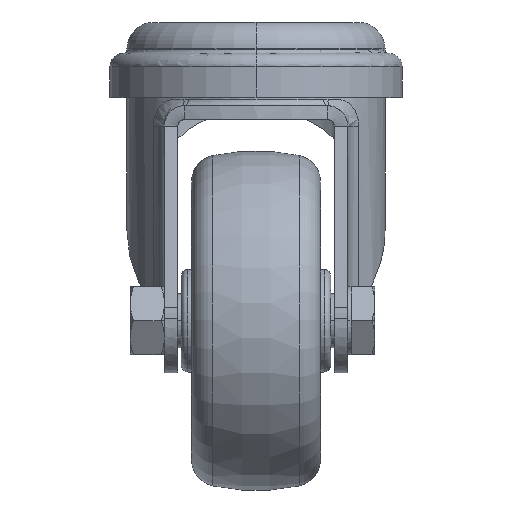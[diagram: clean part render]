
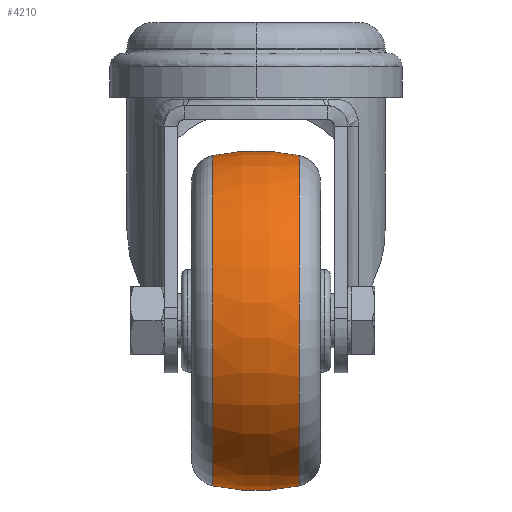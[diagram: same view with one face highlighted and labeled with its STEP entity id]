
A CAD part, top view. The second image highlights one B-rep face of the part: STEP entity #4210.
In plain terms, the highlighted toroidal (fillet/blend) face has major radius 5 mm and minor radius 30 mm.
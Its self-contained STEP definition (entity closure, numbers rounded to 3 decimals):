
#139 = ORIENTED_EDGE ( 'NONE', *, *, #19090, .T. ) ;
#409 = ORIENTED_EDGE ( 'NONE', *, *, #19095, .F. ) ;
#478 = ORIENTED_EDGE ( 'NONE', *, *, #19093, .T. ) ;
#479 = ORIENTED_EDGE ( 'NONE', *, *, #19083, .F. ) ;
#2258 = AXIS2_PLACEMENT_3D ( 'NONE', #28510, #28539, #28541 ) ;
#2272 = TOROIDAL_SURFACE ( 'NONE', #2258, -5., 30. ) ;
#4210 = ADVANCED_FACE ( 'NONE', ( #28481 ), #2272, .T. ) ;
#7751 = CARTESIAN_POINT ( 'NONE',  ( 6.346, 0., -24.321 ) ) ;
#7754 = CARTESIAN_POINT ( 'NONE',  ( -6.346, 0., -24.321 ) ) ;
#7755 = CARTESIAN_POINT ( 'NONE',  ( 6.346, 0., 24.321 ) ) ;
#7774 = CARTESIAN_POINT ( 'NONE',  ( -6.346, 0., 24.321 ) ) ;
#10451 = CIRCLE ( 'NONE', #10455, 24.321 ) ;
#10455 = AXIS2_PLACEMENT_3D ( 'NONE', #42917, #42918, #42919 ) ;
#10462 = CIRCLE ( 'NONE', #10464, 24.321 ) ;
#10463 = CIRCLE ( 'NONE', #10467, 30. ) ;
#10464 = AXIS2_PLACEMENT_3D ( 'NONE', #42935, #42936, #42937 ) ;
#10466 = CIRCLE ( 'NONE', #10468, 30. ) ;
#10467 = AXIS2_PLACEMENT_3D ( 'NONE', #42941, #42942, #42943 ) ;
#10468 = AXIS2_PLACEMENT_3D ( 'NONE', #42955, #42956, #42957 ) ;
#19083 = EDGE_CURVE ( 'NONE', #38727, #38707, #10451, .T. ) ;
#19090 = EDGE_CURVE ( 'NONE', #38708, #38704, #10462, .T. ) ;
#19093 = EDGE_CURVE ( 'NONE', #38704, #38707, #10463, .T. ) ;
#19095 = EDGE_CURVE ( 'NONE', #38708, #38727, #10466, .T. ) ;
#28481 = FACE_OUTER_BOUND ( 'NONE', #36176, .T. ) ;
#28510 = CARTESIAN_POINT ( 'NONE',  ( 0., 0., 0. ) ) ;
#28539 = DIRECTION ( 'NONE',  ( -1., 0., 0. ) ) ;
#28541 = DIRECTION ( 'NONE',  ( 0., 0., 1. ) ) ;
#36176 = EDGE_LOOP ( 'NONE', ( #139, #478, #479, #409 ) ) ;
#38704 = VERTEX_POINT ( 'NONE', #7751 ) ;
#38707 = VERTEX_POINT ( 'NONE', #7754 ) ;
#38708 = VERTEX_POINT ( 'NONE', #7755 ) ;
#38727 = VERTEX_POINT ( 'NONE', #7774 ) ;
#42917 = CARTESIAN_POINT ( 'NONE',  ( -6.346, 0., 0. ) ) ;
#42918 = DIRECTION ( 'NONE',  ( -1., 0., 0. ) ) ;
#42919 = DIRECTION ( 'NONE',  ( 0., 0., 1. ) ) ;
#42935 = CARTESIAN_POINT ( 'NONE',  ( 6.346, 0., 0. ) ) ;
#42936 = DIRECTION ( 'NONE',  ( -1., 0., 0. ) ) ;
#42937 = DIRECTION ( 'NONE',  ( 0., 0., 1. ) ) ;
#42941 = CARTESIAN_POINT ( 'NONE',  ( 0., 0., 5. ) ) ;
#42942 = DIRECTION ( 'NONE',  ( 0., 1., 0. ) ) ;
#42943 = DIRECTION ( 'NONE',  ( 0., 0., 1. ) ) ;
#42955 = CARTESIAN_POINT ( 'NONE',  ( 0., 0., -5. ) ) ;
#42956 = DIRECTION ( 'NONE',  ( 0., -1., 0. ) ) ;
#42957 = DIRECTION ( 'NONE',  ( 0., 0., -1. ) ) ;
